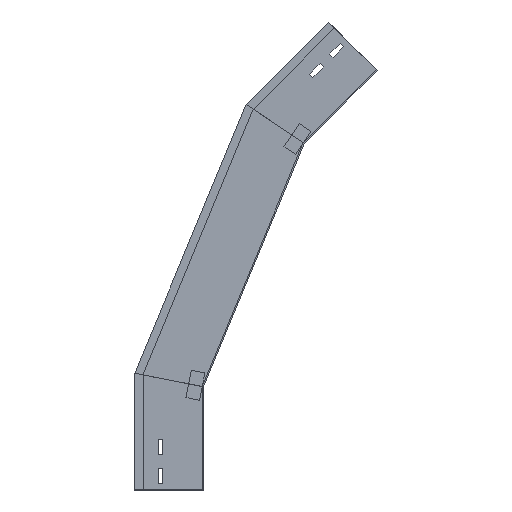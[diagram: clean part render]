
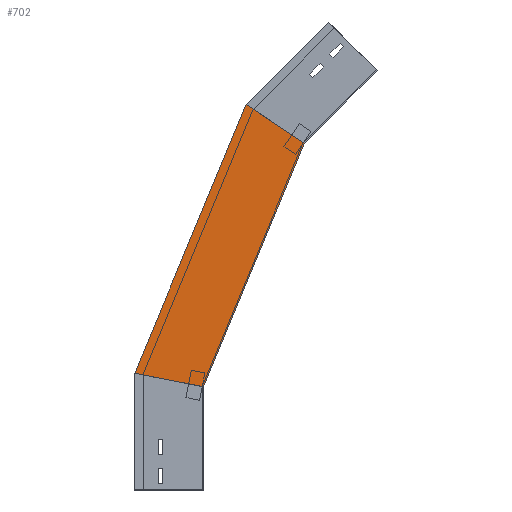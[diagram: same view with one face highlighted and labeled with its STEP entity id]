
A CAD part, left-side view. The second image highlights one B-rep face of the part: STEP entity #702.
In plain terms, the highlighted planar face has unit normal (-1, 0, 0) as drawn and (1, 0, 0) by its records, which use the part's own axes.
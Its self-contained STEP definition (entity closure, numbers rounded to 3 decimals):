
#32 = DIRECTION ( 'NONE',  ( 0., -0.981, -0.195 ) ) ;
#38 = PLANE ( 'NONE',  #50 ) ;
#50 = AXIS2_PLACEMENT_3D ( 'NONE', #1181, #1177, #151 ) ;
#92 = VERTEX_POINT ( 'NONE', #211 ) ;
#151 = DIRECTION ( 'NONE',  ( 0., 0., -1. ) ) ;
#157 = LINE ( 'NONE', #258, #624 ) ;
#160 = EDGE_LOOP ( 'NONE', ( #782, #429, #799, #1470 ) ) ;
#211 = CARTESIAN_POINT ( 'NONE',  ( 0., 100., 169.891 ) ) ;
#240 = CARTESIAN_POINT ( 'NONE',  ( 0., -212.26, 459.952 ) ) ;
#258 = CARTESIAN_POINT ( 'NONE',  ( 0., 100.799, 167.961 ) ) ;
#310 = LINE ( 'NONE', #426, #424 ) ;
#324 = CARTESIAN_POINT ( 'NONE',  ( 0., -146.568, 503.846 ) ) ;
#392 = LINE ( 'NONE', #934, #1322 ) ;
#424 = VECTOR ( 'NONE', #761, 1000. ) ;
#426 = CARTESIAN_POINT ( 'NONE',  ( 0., 8.412, 129.693 ) ) ;
#429 = ORIENTED_EDGE ( 'NONE', *, *, #1014, .T. ) ;
#463 = LINE ( 'NONE', #240, #883 ) ;
#551 = VERTEX_POINT ( 'NONE', #654 ) ;
#583 = VERTEX_POINT ( 'NONE', #1360 ) ;
#624 = VECTOR ( 'NONE', #847, 1000. ) ;
#654 = CARTESIAN_POINT ( 'NONE',  ( 0., 0., 150. ) ) ;
#676 = EDGE_CURVE ( 'NONE', #92, #583, #157, .T. ) ;
#702 = ADVANCED_FACE ( 'NONE', ( #828 ), #38, .T. ) ;
#761 = DIRECTION ( 'NONE',  ( 0., -0.383, 0.924 ) ) ;
#782 = ORIENTED_EDGE ( 'NONE', *, *, #676, .T. ) ;
#788 = EDGE_CURVE ( 'NONE', #92, #551, #392, .T. ) ;
#799 = ORIENTED_EDGE ( 'NONE', *, *, #841, .F. ) ;
#828 = FACE_OUTER_BOUND ( 'NONE', #160, .T. ) ;
#841 = EDGE_CURVE ( 'NONE', #551, #1025, #310, .T. ) ;
#847 = DIRECTION ( 'NONE',  ( 0., -0.383, 0.924 ) ) ;
#883 = VECTOR ( 'NONE', #1251, 1000. ) ;
#934 = CARTESIAN_POINT ( 'NONE',  ( 0., -28.701, 144.291 ) ) ;
#1014 = EDGE_CURVE ( 'NONE', #583, #1025, #463, .T. ) ;
#1025 = VERTEX_POINT ( 'NONE', #324 ) ;
#1177 = DIRECTION ( 'NONE',  ( 1., 0., 0. ) ) ;
#1181 = CARTESIAN_POINT ( 'NONE',  ( 0., 8.412, 129.693 ) ) ;
#1251 = DIRECTION ( 'NONE',  ( 0., -0.831, -0.556 ) ) ;
#1322 = VECTOR ( 'NONE', #32, 1000. ) ;
#1360 = CARTESIAN_POINT ( 'NONE',  ( 0., -61.792, 560.491 ) ) ;
#1470 = ORIENTED_EDGE ( 'NONE', *, *, #788, .F. ) ;
